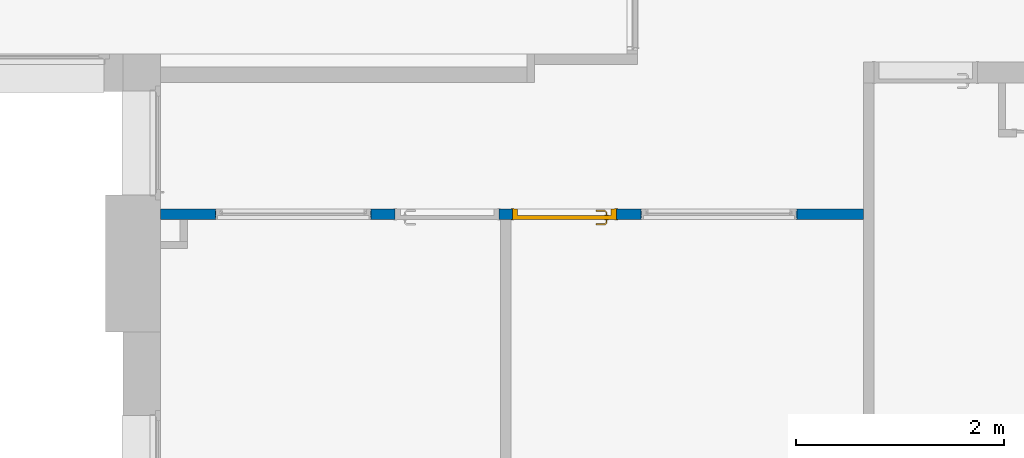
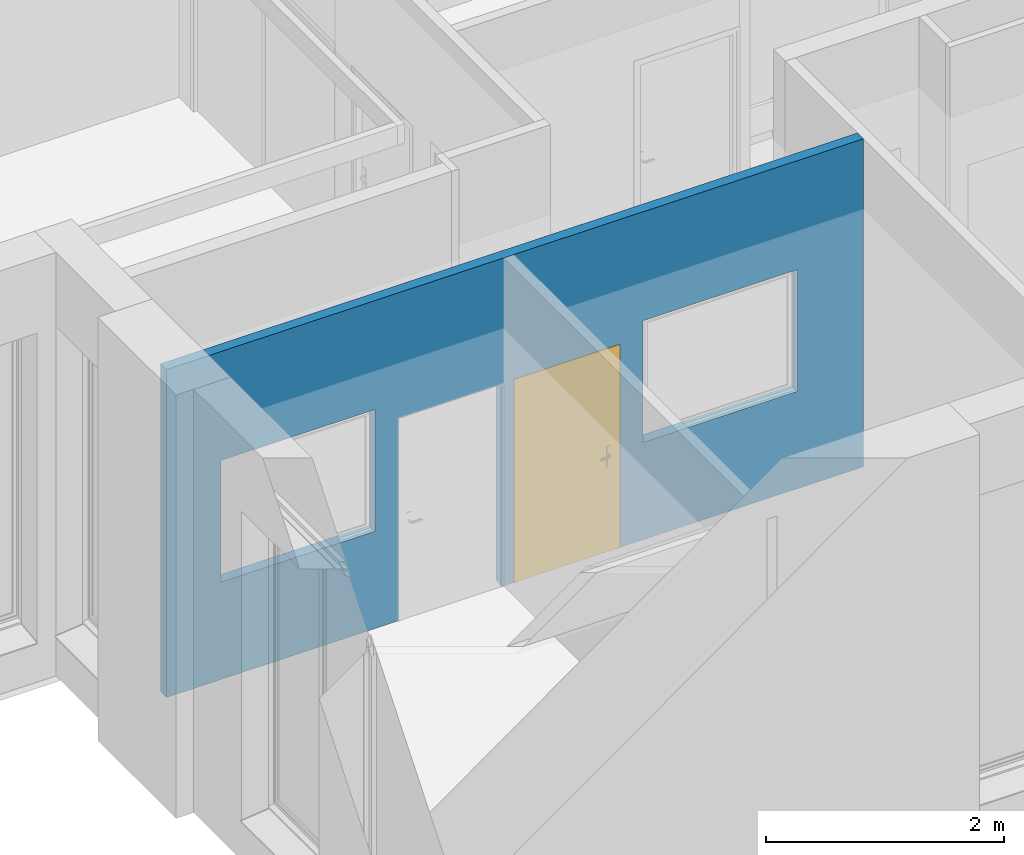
# One storey, part 6 of 32: 1 door, 1 wall, 4 openings.
"""IFC2X3 building model written with IfcOpenShell, lengths in metres."""

from ifc_helpers import new_model, entity, si_unit, converted_unit, derived_unit, direction, frame, frame_2d, origin, origin_2d_with_axis, place, context, subcontext, project, spatial, polyline, circle_curve, parameter, trimmed, segment, composite_curve, rectangle, outline, extrude, faceted_brep, source, transform, mapped, material, material_list, layer, layer_set, layer_usage, type_object, type_shapes, element, fill, save


model = new_model("IFC2X3")

# Units and contexts
model_context = context("Model", 3, precision=1e-05, world=origin(), true_north=direction((6.12303176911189e-17, 1.0)))
plan_context = context("Plan", 3, precision=1e-05, world=origin(), true_north=direction((6.12303176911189e-17, 1.0)))
body_context = subcontext(model_context, "Body", "Model", "MODEL_VIEW")
ifc_project = project(units=[si_unit("LENGTHUNIT", "METRE"), si_unit("AREAUNIT", "SQUARE_METRE"), si_unit("VOLUMEUNIT", "CUBIC_METRE"), converted_unit("PLANEANGLEUNIT", "DEGREE", entity("IfcRatioMeasure", 0.0174532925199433), si_unit("PLANEANGLEUNIT", "RADIAN"), dimensions=[0, 0, 0, 0, 0, 0, 0]), si_unit("MASSUNIT", "GRAM", prefix="KILO"), derived_unit("MASSDENSITYUNIT", [(si_unit("MASSUNIT", "GRAM", prefix="KILO"), 1), (si_unit("LENGTHUNIT", "METRE"), -3)]), derived_unit("MOMENTOFINERTIAUNIT", [(si_unit("LENGTHUNIT", "METRE"), 4)]), si_unit("TIMEUNIT", "SECOND"), si_unit("FREQUENCYUNIT", "HERTZ"), si_unit("THERMODYNAMICTEMPERATUREUNIT", "DEGREE_CELSIUS"), derived_unit("THERMALTRANSMITTANCEUNIT", [(si_unit("MASSUNIT", "GRAM", prefix="KILO"), 1), (si_unit("THERMODYNAMICTEMPERATUREUNIT", "KELVIN"), -1), (si_unit("TIMEUNIT", "SECOND"), -3)]), derived_unit("VOLUMETRICFLOWRATEUNIT", [(si_unit("LENGTHUNIT", "METRE"), 3), (si_unit("TIMEUNIT", "SECOND"), -1)]), si_unit("ELECTRICCURRENTUNIT", "AMPERE"), si_unit("ELECTRICVOLTAGEUNIT", "VOLT"), si_unit("POWERUNIT", "WATT"), si_unit("FORCEUNIT", "NEWTON", prefix="KILO"), si_unit("ILLUMINANCEUNIT", "LUX"), si_unit("LUMINOUSFLUXUNIT", "LUMEN"), si_unit("LUMINOUSINTENSITYUNIT", "CANDELA"), derived_unit("USERDEFINED", [(si_unit("MASSUNIT", "GRAM", prefix="KILO"), -1), (si_unit("LENGTHUNIT", "METRE"), -2), (si_unit("TIMEUNIT", "SECOND"), 3), (si_unit("LUMINOUSFLUXUNIT", "LUMEN"), 1)]), derived_unit("LINEARVELOCITYUNIT", [(si_unit("LENGTHUNIT", "METRE"), 1), (si_unit("TIMEUNIT", "SECOND"), -1)]), si_unit("PRESSUREUNIT", "PASCAL"), derived_unit("USERDEFINED", [(si_unit("LENGTHUNIT", "METRE"), -2), (si_unit("MASSUNIT", "GRAM", prefix="KILO"), 1), (si_unit("TIMEUNIT", "SECOND"), -2)]), derived_unit("LINEARFORCEUNIT", [(si_unit("MASSUNIT", "GRAM", prefix="KILO"), 1), (si_unit("LENGTHUNIT", "METRE"), 1), (si_unit("TIMEUNIT", "SECOND"), -2), (si_unit("LENGTHUNIT", "METRE"), -1)]), derived_unit("PLANARFORCEUNIT", [(si_unit("MASSUNIT", "GRAM", prefix="KILO"), 1), (si_unit("LENGTHUNIT", "METRE"), 1), (si_unit("TIMEUNIT", "SECOND"), -2), (si_unit("LENGTHUNIT", "METRE"), -2)])], contexts=[model_context, plan_context])

# Site, building, storey
site_placement = place(None, origin())
site = spatial("IfcSite", under=ifc_project, at=site_placement, Name="Default", CompositionType="ELEMENT")
building_placement = place(site_placement, origin())
building = spatial("IfcBuilding", under=site, at=building_placement, CompositionType="ELEMENT")
storey_placement = place(building_placement, origin())
storey = spatial("IfcBuildingStorey", under=building, at=storey_placement, Name="0 Mairie RDC 0.00", CompositionType="ELEMENT", Elevation=-1.94916083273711e-14)

# Wall, openings, door
ifc_material_1 = material(Name="Plâtre")
ifc_layer_1 = layer(ifc_material_1, 0.0125)
ifc_layer_2 = layer(ifc_material_1, 0.0125)
ifc_material_2 = material(Name="Maçonnerie - Isolant")
ifc_layer_3 = layer(ifc_material_2, 0.05)
ifc_layer_4 = layer(ifc_material_1, 0.0125)
ifc_layer_5 = layer(ifc_material_1, 0.0125)
ifc_layer_set = layer_set([ifc_layer_1, ifc_layer_2, ifc_layer_3, ifc_layer_4, ifc_layer_5], Name="Mur de base:A cloison placostil 98 sèche")
ifc_layer_usage = layer_usage(ifc_layer_set, "AXIS2", "NEGATIVE", 0.05)
wall_type = type_object("IfcWallType", Name="Murs : Mur de base : A cloison placostil 98 sèche", PredefinedType="STANDARD", material=ifc_layer_set)
wall_placement = place(storey_placement, frame((-23.7782803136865, -9.49907753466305, 0.0)))
wall = element("IfcWallStandardCase", 1, at=wall_placement, inside=storey, type_object=wall_type, material=ifc_layer_usage, Name="Murs : Mur de base : A cloison placostil 98 sèche", ObjectType="Mur de base:A cloison placostil 98 sèche", context=body_context, shape_type="SweptSolid", body=[
    extrude(rectangle(XDim=6.77283415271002, YDim=0.0999999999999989, at=frame_2d((3.38641707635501, 0.0), x_axis=(-1.0, 0.0))), origin(), (0.0, 0.0, 1.0), 3.37),
])
opening_1_placement = place(wall_placement, frame((4.39112410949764, 0.0499999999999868, 0.0)))
opening_1 = element("IfcOpeningElement", 2, at=opening_1_placement, cuts=wall, Name="Portes : Int. Simple : PP (0.89m x 2.04m):1", ObjectType="Opening", context=body_context, shape_type="SweptSolid", body=[
    extrude(rectangle(XDim=2.075, YDim=1.0, at=frame_2d((1.0375, 0.5), x_axis=(1.0, 0.0))), frame((0.0, 0.0, 0.0), z_axis=(0.0, -1.0, 0.0), x_axis=(0.0, 0.0, 1.0)), (0.0, 0.0, 1.0), 0.1),
])
opening_2_placement = place(wall_placement, frame((3.26112410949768, 0.0499999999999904, 0.0)))
element("IfcOpeningElement", 3, at=opening_2_placement, cuts=wall, Name="Portes : Int. Simple : PP (0.89m x 2.04m):1", ObjectType="Opening", context=body_context, shape_type="SweptSolid", body=[
    extrude(rectangle(XDim=2.075, YDim=1.0, at=frame_2d((1.0375, 0.500000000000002), x_axis=(1.0, 0.0))), frame((0.0, 0.0, 0.0), z_axis=(0.0, -1.0, 0.0), x_axis=(0.0, 0.0, 1.0)), (0.0, 0.0, 1.0), 0.1),
])
opening_3_placement = place(wall_placement, frame((0.527504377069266, -0.0500000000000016, 1.0)))
element("IfcOpeningElement", 4, at=opening_3_placement, cuts=wall, Name="Fenêtres : WINDSOR Window Fixed Signature : Fixed-Window_B02M1S100100-White 1.50x1.00:1", ObjectType="Opening", context=body_context, shape_type="SweptSolid", body=[
    extrude(rectangle(XDim=1.25, YDim=1.5, at=frame_2d((0.624999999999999, 0.75), x_axis=(-1.0, 0.0))), frame((0.0, 0.0, 0.0), z_axis=(0.0, 1.0, 0.0), x_axis=(0.0, 0.0, 1.0)), (0.0, 0.0, 1.0), 0.1),
])
opening_4_placement = place(wall_placement, frame((4.63052662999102, -0.0500000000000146, 1.0)))
element("IfcOpeningElement", 5, at=opening_4_placement, cuts=wall, Name="Fenêtres : WINDSOR Window Fixed Signature : Fixed-Window_B02M1S100100-White 1.50x1.00:1", ObjectType="Opening", context=body_context, shape_type="SweptSolid", body=[
    extrude(rectangle(XDim=1.25, YDim=1.5, at=frame_2d((0.624999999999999, 0.75), x_axis=(-1.0, 0.0))), frame((0.0, 0.0, 0.0), z_axis=(0.0, 1.0, 0.0), x_axis=(0.0, 0.0, 1.0)), (0.0, 0.0, 1.0), 0.1),
])
ifc_material_3 = material(Name="Finition Peinture - Blanc satiné")
ifc_material_4 = material(Name="Bois - Cadre de porte")
ifc_material_list_1 = material_list([ifc_material_3, ifc_material_4])
ifc_material_5 = material(Name="Bois - Panneau de porte")
ifc_material_list_2 = material_list([ifc_material_5, ifc_material_4, ifc_material_3])
door_style = type_object("IfcDoorStyle", Name="Portes : Int. Simple : PP (0.89m x 2.04m)", ConstructionType="NOTDEFINED", OperationType="NOTDEFINED", ParameterTakesPrecedence=False, Sizeable=False, material=ifc_material_list_2)
shared_shape = source(origin(), body_context, "Body", "SolidModel", [
    extrude(outline(composite_curve([segment(polyline([(-0.104999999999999, -0.02), (0.104999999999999, -0.0199999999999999)]), True, "CONTINUOUS"), segment(trimmed(circle_curve(frame_2d((0.0703589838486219, 0.0), x_axis=(0.0, 1.0)), 0.0399999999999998), [parameter(240.000000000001)], [parameter(300.0)], True, "PARAMETER"), True, "CONTINUOUS"), segment(polyline([(0.104999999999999, 0.0199999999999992), (-0.105, 0.0200000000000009)]), True, "CONTINUOUS"), segment(trimmed(circle_curve(frame_2d((-0.0703589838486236, 0.0), x_axis=(0.0, 1.0)), 0.0399999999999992), [parameter(59.9999999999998)], [parameter(120.0)], True, "PARAMETER"), True, "CONTINUOUS")], self_intersect=False)), frame((0.975000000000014, 0.0, 0.975000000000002), z_axis=(0.0, -1.0, 0.0), x_axis=(0.0, 0.0, 1.0)), (0.0, 0.0, 1.0), 0.005),
    extrude(outline(composite_curve([segment(polyline([(-0.105, -0.02), (0.105, -0.02)]), True, "CONTINUOUS"), segment(trimmed(circle_curve(frame_2d((0.0703589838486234, 0.0), x_axis=(0.0, -1.0)), 0.0399999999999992), [parameter(59.9999999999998)], [parameter(120.0)], True, "PARAMETER"), True, "CONTINUOUS"), segment(polyline([(0.104999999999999, 0.0200000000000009), (-0.105, 0.0199999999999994)]), True, "CONTINUOUS"), segment(trimmed(circle_curve(frame_2d((-0.0703589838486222, 0.0), x_axis=(0.0, -1.0)), 0.0399999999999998), [parameter(240.0)], [parameter(300.0)], True, "PARAMETER"), True, "CONTINUOUS")], self_intersect=False)), frame((0.975000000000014, 0.0449999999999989, 0.975000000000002), z_axis=(0.0, -1.0, 0.0), x_axis=(0.0, 0.0, -1.0)), (0.0, 0.0, 1.0), 0.00500000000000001),
    extrude(rectangle(XDim=0.93, YDim=0.04, at=origin_2d_with_axis()), frame((0.570000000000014, 0.02, 0.0), z_axis=(0.0, 0.0, 1.0), x_axis=(-1.0, 0.0, 0.0)), (0.0, 0.0, 1.0), 2.04),
    extrude(outline(polyline([(0.484999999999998, -1.03750000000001), (0.514999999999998, -1.03750000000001), (0.514999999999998, 1.0525), (-0.514999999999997, 1.0525), (-0.514999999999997, -1.0375), (-0.484999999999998, -1.03750000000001), (-0.484999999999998, 1.02250000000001), (0.484999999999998, 1.02250000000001), (0.484999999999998, -1.03750000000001)])), frame((0.570000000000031, 0.105000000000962, 1.03750000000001), z_axis=(0.0, -1.0, 0.0), x_axis=(1.0, 0.0, 0.0)), (0.0, 0.0, 1.0), 0.00500000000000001),
    extrude(outline(polyline([(0.484999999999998, -1.03750000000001), (0.514999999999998, -1.03750000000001), (0.514999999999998, 1.0525), (-0.514999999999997, 1.0525), (-0.514999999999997, -1.0375), (-0.484999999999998, -1.03750000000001), (-0.484999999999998, 1.02250000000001), (0.484999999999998, 1.02250000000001), (0.484999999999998, -1.03750000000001)])), frame((0.570000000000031, 0.0, 1.03750000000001), z_axis=(0.0, -1.0, 0.0), x_axis=(1.0, 0.0, 0.0)), (0.0, 0.0, 1.0), 0.005),
    faceted_brep([(0.972974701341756, -0.0050000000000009, 1.00778044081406), (0.977025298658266, -0.00500000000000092, 1.00778044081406), (0.981000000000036, -0.00500000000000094, 1.00699999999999), (0.981000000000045, -0.00500000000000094, 0.992999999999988), (0.977025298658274, -0.00500000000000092, 0.99221955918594), (0.972974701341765, -0.0050000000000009, 0.992219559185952), (0.968999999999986, -0.00500000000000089, 0.993000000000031), (0.968999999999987, -0.00500000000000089, 1.007), (0.977025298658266, -0.0310045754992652, 1.00778044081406), (0.981000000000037, -0.0326509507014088, 1.007), (0.972974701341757, -0.0293267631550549, 1.00778044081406), (0.959298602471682, -0.0430028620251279, 1.00778044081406), (0.960976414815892, -0.0470534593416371, 1.00778044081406), (0.968999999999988, -0.0276803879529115, 1.007), (0.968999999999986, -0.0276803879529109, 0.993000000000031), (0.972974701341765, -0.0293267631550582, 0.992219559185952), (0.977025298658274, -0.0310045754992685, 0.99221955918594), (0.960976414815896, -0.0470534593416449, 0.99221955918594), (0.959298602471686, -0.0430028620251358, 0.992219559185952), (0.981000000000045, -0.0326509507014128, 0.992999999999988), (0.962622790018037, -0.051028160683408, 1.007), (0.957652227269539, -0.0390281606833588, 1.007), (0.957652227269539, -0.0390281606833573, 0.993000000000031), (0.96262279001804, -0.0510281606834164, 0.992999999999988), (0.874981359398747, -0.0510281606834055, 1.007), (0.874981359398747, -0.0470534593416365, 1.00778044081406), (0.874981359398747, -0.0430028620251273, 1.00778044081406), (0.874981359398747, -0.0390281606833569, 1.00699999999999), (0.874981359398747, -0.0390281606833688, 0.993000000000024), (0.874981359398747, -0.0430028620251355, 0.992219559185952), (0.874981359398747, -0.0470534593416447, 0.99221955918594), (0.874981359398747, -0.0510281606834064, 0.992999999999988), (0.917139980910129, -0.045028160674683, 1.0078786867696), (0.922692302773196, -0.051028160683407, 1.007), (0.916316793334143, -0.039028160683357, 1.007), (0.916316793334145, -0.0390281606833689, 0.993000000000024), (0.917139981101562, -0.0450281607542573, 0.992121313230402), (0.922692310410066, -0.0510281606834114, 0.992999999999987)], [[[0, 1, 2, 3, 4, 5, 6, 7]], [[2, 1, 8, 9]], [[1, 0, 10, 11, 12, 8]], [[0, 7, 13, 10]], [[14, 13, 7, 6]], [[5, 15, 14, 6]], [[5, 4, 16, 17, 18, 15]], [[3, 19, 16, 4]], [[9, 19, 3, 2]], [[9, 8, 12, 20]], [[10, 13, 21, 11]], [[22, 21, 13, 14]], [[14, 15, 18, 22]], [[16, 19, 23, 17]], [[20, 23, 19, 9]], [[24, 25, 26, 27, 28, 29, 30, 31]], [[32, 25, 33]], [[33, 25, 24]], [[33, 20, 12]], [[11, 34, 32]], [[34, 11, 21]], [[27, 26, 34]], [[32, 26, 25]], [[32, 34, 26]], [[32, 33, 12]], [[11, 32, 12]], [[21, 22, 35, 28, 27, 34]], [[36, 29, 35]], [[30, 36, 37]], [[18, 35, 22]], [[29, 28, 35]], [[30, 37, 31]], [[37, 17, 23]], [[36, 17, 37]], [[36, 18, 17]], [[36, 35, 18]], [[29, 36, 30]], [[23, 20, 33, 24, 31, 37]]]),
    faceted_brep([(0.972974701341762, 0.0449999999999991, 0.992219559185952), (0.977025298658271, 0.0449999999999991, 0.99221955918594), (0.981000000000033, 0.044999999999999, 0.992999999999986), (0.981000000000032, 0.044999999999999, 1.007), (0.977025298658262, 0.0449999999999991, 1.00778044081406), (0.972974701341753, 0.0449999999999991, 1.00778044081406), (0.968999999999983, 0.0449999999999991, 1.007), (0.968999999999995, 0.0449999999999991, 0.993000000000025), (0.968999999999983, 0.067485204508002, 1.007), (0.968999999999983, 0.0674852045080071, 0.993000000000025), (0.972974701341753, 0.0691315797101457, 1.00778044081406), (0.977025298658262, 0.070809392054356, 1.00778044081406), (0.960838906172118, 0.0869957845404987, 1.00778044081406), (0.959161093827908, 0.0829451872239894, 1.00778044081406), (0.981000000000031, 0.0724557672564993, 1.007), (0.981000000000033, 0.0724557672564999, 0.992999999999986), (0.977025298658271, 0.0708093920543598, 0.99221955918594), (0.972974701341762, 0.0691315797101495, 0.992219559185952), (0.959161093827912, 0.0829451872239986, 0.992219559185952), (0.960838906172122, 0.0869957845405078, 0.99221955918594), (0.957514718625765, 0.0789704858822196, 1.007), (0.957514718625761, 0.0789704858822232, 0.993000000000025), (0.962485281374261, 0.0909704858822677, 1.007), (0.962485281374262, 0.0909704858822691, 0.992999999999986), (0.874954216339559, 0.0829451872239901, 1.00778044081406), (0.874954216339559, 0.0869957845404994, 1.00778044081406), (0.874954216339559, 0.0909704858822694, 1.007), (0.874954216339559, 0.0909704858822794, 0.992999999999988), (0.874954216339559, 0.086995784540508, 0.99221955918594), (0.874954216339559, 0.0829451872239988, 0.992219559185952), (0.874954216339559, 0.0789704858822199, 0.993000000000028), (0.874954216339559, 0.0789704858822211, 1.007), (0.916234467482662, 0.0789704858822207, 1.007), (0.916234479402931, 0.0789704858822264, 0.993000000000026), (0.917057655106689, 0.0849704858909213, 1.0078786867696), (0.922554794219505, 0.0909704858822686, 1.007), (0.922554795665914, 0.0909704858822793, 0.992999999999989), (0.917057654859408, 0.0849704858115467, 0.992121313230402)], [[[0, 1, 2, 3, 4, 5, 6, 7]], [[8, 9, 7, 6]], [[5, 10, 8, 6]], [[5, 4, 11, 12, 13, 10]], [[3, 14, 11, 4]], [[14, 3, 2, 15]], [[2, 1, 16, 15]], [[1, 0, 17, 18, 19, 16]], [[0, 7, 9, 17]], [[20, 21, 9, 8]], [[8, 10, 13, 20]], [[14, 22, 12, 11]], [[23, 22, 14, 15]], [[15, 16, 19, 23]], [[17, 9, 21, 18]], [[24, 25, 26, 27, 28, 29, 30, 31]], [[21, 20, 32, 31, 30, 33]], [[34, 24, 32]], [[25, 34, 35]], [[13, 32, 20]], [[24, 31, 32]], [[25, 35, 26]], [[35, 12, 22]], [[34, 12, 35]], [[34, 13, 12]], [[34, 32, 13]], [[24, 34, 25]], [[22, 23, 36, 27, 26, 35]], [[37, 28, 36]], [[36, 28, 27]], [[36, 23, 19]], [[18, 33, 37]], [[33, 18, 21]], [[30, 29, 33]], [[37, 29, 28]], [[37, 33, 29]], [[37, 36, 19]], [[18, 37, 19]]]),
    faceted_brep([(1.07000000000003, 0.0, 0.0), (1.03500000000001, 0.0, 0.0), (1.03500000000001, 0.040000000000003, 0.0), (1.02000000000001, 0.040000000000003, 0.0), (1.02000000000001, 0.100000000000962, 0.0), (1.07000000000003, 0.100000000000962, 0.0), (1.07000000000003, 0.100000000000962, 2.07500000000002), (1.07000000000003, 0.0, 2.07500000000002), (1.02000000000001, 0.100000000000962, 2.025), (0.120000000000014, 0.100000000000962, 2.025), (0.120000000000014, 0.100000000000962, 0.0), (0.0699999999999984, 0.100000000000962, 0.0), (0.0699999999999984, 0.100000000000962, 2.07500000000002), (1.02000000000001, 0.040000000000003, 2.025), (1.03500000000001, 0.040000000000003, 2.04), (0.105000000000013, 0.040000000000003, 2.04), (0.105000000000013, 0.040000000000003, 0.0), (0.120000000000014, 0.040000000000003, 0.0), (0.120000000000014, 0.040000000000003, 2.025), (1.03500000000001, 0.0, 2.04), (0.0699999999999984, 0.0, 2.07500000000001), (0.0699999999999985, 0.0, 0.0), (0.105000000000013, 0.0, 0.0), (0.105000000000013, 0.0, 2.04)], [[[0, 1, 2, 3, 4, 5]], [[5, 6, 7, 0]], [[4, 8, 9, 10, 11, 12, 6, 5]], [[3, 13, 8, 4]], [[2, 14, 15, 16, 17, 18, 13, 3]], [[1, 19, 14, 2]], [[0, 7, 20, 21, 22, 23, 19, 1]], [[12, 11, 21, 20]], [[21, 11, 10, 17, 16, 22]], [[18, 17, 10, 9]], [[23, 22, 16, 15]], [[6, 12, 20, 7]], [[13, 18, 9, 8]], [[19, 23, 15, 14]]]),
])
type_shapes(door_style, [shared_shape])
door_placement = place(opening_1_placement, frame((-1.07000000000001, -0.0999999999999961, 0.0)))
door = element("IfcDoor", 6, at=door_placement, inside=storey, type_object=door_style, material=ifc_material_list_1, Name="Portes : Int. Simple : PP (0.89m x 2.04m)", ObjectType="Int. Simple:PP (0.89m x 2.04m)", OverallHeight=2.075, OverallWidth=0.999999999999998, context=body_context, shape_type="MappedRepresentation", body=[
    mapped(shared_shape, transform((0.0, 0.0, 0.0), scale=1.0)),
])
fill(opening_1, door)

save(model, "model.ifc")
